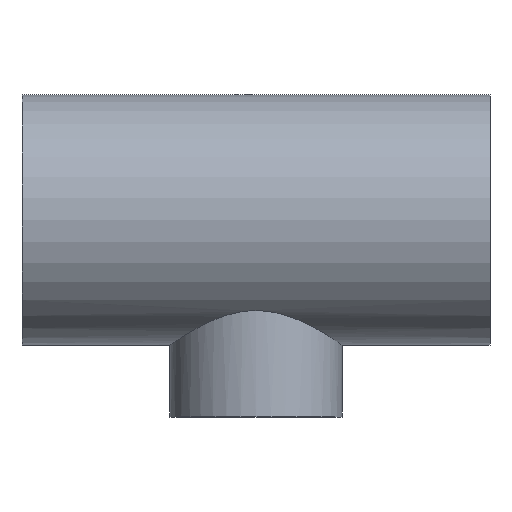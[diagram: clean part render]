
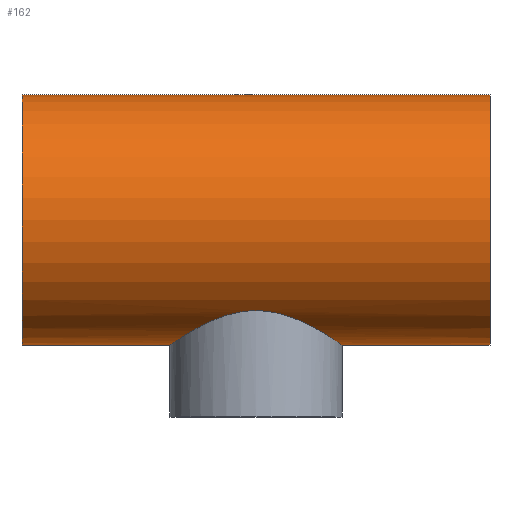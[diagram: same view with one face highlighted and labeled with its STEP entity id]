
A CAD part, top view. The second image highlights one B-rep face of the part: STEP entity #162.
In plain terms, the highlighted cylindrical face has radius 30.5 mm (diameter 61 mm), a full revolution.
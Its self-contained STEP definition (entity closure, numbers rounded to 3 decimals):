
#16=B_SPLINE_CURVE_WITH_KNOTS('',3,(#328,#329,#330,#331,#332,#333,#334,
#335,#336,#337,#338,#339,#340,#341,#342,#343,#344,#345,#346,#347,#348,#349,
#350,#351,#352,#353,#354,#355,#356,#357,#358,#359,#360,#361,#362,#363,#364,
#365,#366,#367,#368,#369,#370,#371,#372,#373,#374,#375,#376,#377,#378,#379,
#380,#381,#382,#383,#384,#385,#386,#387,#388,#389,#390,#391,#392,#393),
 .UNSPECIFIED.,.T.,.F.,(4,2,2,2,2,2,2,2,2,2,2,2,2,2,2,2,2,2,2,2,2,2,2,2,
2,2,2,2,2,2,2,2,4),(0.,0.416,0.832,1.249,
1.665,2.076,2.486,2.897,3.308,
3.719,4.13,4.54,4.951,5.367,
5.784,6.2,6.616,7.032,7.448,
7.865,8.281,8.692,9.102,9.513,
9.924,10.335,10.745,11.156,11.567,
11.983,12.399,12.816,13.232),
 .UNSPECIFIED.);
#32=FACE_BOUND('',#69,.T.);
#33=FACE_BOUND('',#70,.T.);
#46=FACE_OUTER_BOUND('',#68,.T.);
#68=EDGE_LOOP('',(#136));
#69=EDGE_LOOP('',(#137));
#70=EDGE_LOOP('',(#138));
#88=CIRCLE('',#187,30.5);
#89=CIRCLE('',#188,30.5);
#101=VERTEX_POINT('',#325);
#102=VERTEX_POINT('',#327);
#103=VERTEX_POINT('',#394);
#115=EDGE_CURVE('',#101,#101,#88,.T.);
#116=EDGE_CURVE('',#102,#102,#16,.T.);
#117=EDGE_CURVE('',#103,#103,#89,.T.);
#136=ORIENTED_EDGE('',*,*,#115,.F.);
#137=ORIENTED_EDGE('',*,*,#116,.T.);
#138=ORIENTED_EDGE('',*,*,#117,.F.);
#152=CYLINDRICAL_SURFACE('',#186,30.5);
#162=ADVANCED_FACE('',(#46,#32,#33),#152,.T.);
#186=AXIS2_PLACEMENT_3D('',#324,#230,#231);
#187=AXIS2_PLACEMENT_3D('',#326,#232,#233);
#188=AXIS2_PLACEMENT_3D('',#395,#234,#235);
#230=DIRECTION('center_axis',(1.,0.,0.));
#231=DIRECTION('ref_axis',(0.,-1.,0.));
#232=DIRECTION('center_axis',(-1.,0.,0.));
#233=DIRECTION('ref_axis',(0.,-1.,0.));
#234=DIRECTION('center_axis',(1.,0.,0.));
#235=DIRECTION('ref_axis',(0.,-1.,0.));
#324=CARTESIAN_POINT('Origin',(0.,0.,0.));
#325=CARTESIAN_POINT('',(-57.,30.5,0.));
#326=CARTESIAN_POINT('Origin',(-57.,0.,0.));
#327=CARTESIAN_POINT('',(0.,-22.119,21.));
#328=CARTESIAN_POINT('Ctrl Pts',(0.,-22.119,
21.));
#329=CARTESIAN_POINT('Ctrl Pts',(1.387,-22.119,21.));
#330=CARTESIAN_POINT('Ctrl Pts',(2.793,-22.254,20.861));
#331=CARTESIAN_POINT('Ctrl Pts',(5.545,-22.763,20.303));
#332=CARTESIAN_POINT('Ctrl Pts',(6.892,-23.137,19.886));
#333=CARTESIAN_POINT('Ctrl Pts',(9.451,-24.023,18.805));
#334=CARTESIAN_POINT('Ctrl Pts',(10.665,-24.536,18.141));
#335=CARTESIAN_POINT('Ctrl Pts',(12.908,-25.591,16.62));
#336=CARTESIAN_POINT('Ctrl Pts',(13.937,-26.132,15.762));
#337=CARTESIAN_POINT('Ctrl Pts',(15.75,-27.143,13.948));
#338=CARTESIAN_POINT('Ctrl Pts',(16.605,-27.652,12.927));
#339=CARTESIAN_POINT('Ctrl Pts',(18.13,-28.594,10.683));
#340=CARTESIAN_POINT('Ctrl Pts',(18.8,-29.026,9.461));
#341=CARTESIAN_POINT('Ctrl Pts',(19.888,-29.743,6.885));
#342=CARTESIAN_POINT('Ctrl Pts',(20.308,-30.027,5.528));
#343=CARTESIAN_POINT('Ctrl Pts',(20.864,-30.406,2.77));
#344=CARTESIAN_POINT('Ctrl Pts',(21.,-30.5,1.369));
#345=CARTESIAN_POINT('Ctrl Pts',(21.,-30.5,-1.369));
#346=CARTESIAN_POINT('Ctrl Pts',(20.864,-30.406,-2.77));
#347=CARTESIAN_POINT('Ctrl Pts',(20.308,-30.027,-5.528));
#348=CARTESIAN_POINT('Ctrl Pts',(19.888,-29.743,-6.885));
#349=CARTESIAN_POINT('Ctrl Pts',(18.8,-29.026,-9.461));
#350=CARTESIAN_POINT('Ctrl Pts',(18.13,-28.594,-10.683));
#351=CARTESIAN_POINT('Ctrl Pts',(16.605,-27.652,-12.927));
#352=CARTESIAN_POINT('Ctrl Pts',(15.75,-27.143,-13.948));
#353=CARTESIAN_POINT('Ctrl Pts',(13.937,-26.132,-15.762));
#354=CARTESIAN_POINT('Ctrl Pts',(12.908,-25.591,-16.62));
#355=CARTESIAN_POINT('Ctrl Pts',(10.665,-24.536,-18.141));
#356=CARTESIAN_POINT('Ctrl Pts',(9.451,-24.023,-18.805));
#357=CARTESIAN_POINT('Ctrl Pts',(6.892,-23.137,-19.886));
#358=CARTESIAN_POINT('Ctrl Pts',(5.545,-22.763,-20.303));
#359=CARTESIAN_POINT('Ctrl Pts',(2.793,-22.254,-20.861));
#360=CARTESIAN_POINT('Ctrl Pts',(1.387,-22.119,-21.));
#361=CARTESIAN_POINT('Ctrl Pts',(-1.387,-22.119,-21.));
#362=CARTESIAN_POINT('Ctrl Pts',(-2.793,-22.254,-20.861));
#363=CARTESIAN_POINT('Ctrl Pts',(-5.545,-22.763,-20.303));
#364=CARTESIAN_POINT('Ctrl Pts',(-6.892,-23.137,-19.886));
#365=CARTESIAN_POINT('Ctrl Pts',(-9.451,-24.023,-18.805));
#366=CARTESIAN_POINT('Ctrl Pts',(-10.665,-24.536,-18.141));
#367=CARTESIAN_POINT('Ctrl Pts',(-12.908,-25.591,-16.62));
#368=CARTESIAN_POINT('Ctrl Pts',(-13.937,-26.132,-15.762));
#369=CARTESIAN_POINT('Ctrl Pts',(-15.75,-27.143,-13.948));
#370=CARTESIAN_POINT('Ctrl Pts',(-16.605,-27.652,-12.927));
#371=CARTESIAN_POINT('Ctrl Pts',(-18.13,-28.594,-10.683));
#372=CARTESIAN_POINT('Ctrl Pts',(-18.8,-29.026,-9.461));
#373=CARTESIAN_POINT('Ctrl Pts',(-19.888,-29.743,-6.885));
#374=CARTESIAN_POINT('Ctrl Pts',(-20.308,-30.027,-5.528));
#375=CARTESIAN_POINT('Ctrl Pts',(-20.864,-30.406,-2.77));
#376=CARTESIAN_POINT('Ctrl Pts',(-21.,-30.5,-1.369));
#377=CARTESIAN_POINT('Ctrl Pts',(-21.,-30.5,1.369));
#378=CARTESIAN_POINT('Ctrl Pts',(-20.864,-30.406,2.77));
#379=CARTESIAN_POINT('Ctrl Pts',(-20.308,-30.027,5.528));
#380=CARTESIAN_POINT('Ctrl Pts',(-19.888,-29.743,6.885));
#381=CARTESIAN_POINT('Ctrl Pts',(-18.8,-29.026,9.461));
#382=CARTESIAN_POINT('Ctrl Pts',(-18.13,-28.594,10.683));
#383=CARTESIAN_POINT('Ctrl Pts',(-16.605,-27.652,12.927));
#384=CARTESIAN_POINT('Ctrl Pts',(-15.75,-27.143,13.948));
#385=CARTESIAN_POINT('Ctrl Pts',(-13.937,-26.132,15.762));
#386=CARTESIAN_POINT('Ctrl Pts',(-12.908,-25.591,16.62));
#387=CARTESIAN_POINT('Ctrl Pts',(-10.665,-24.536,18.141));
#388=CARTESIAN_POINT('Ctrl Pts',(-9.451,-24.023,18.805));
#389=CARTESIAN_POINT('Ctrl Pts',(-6.892,-23.137,19.886));
#390=CARTESIAN_POINT('Ctrl Pts',(-5.545,-22.763,20.303));
#391=CARTESIAN_POINT('Ctrl Pts',(-2.793,-22.254,20.861));
#392=CARTESIAN_POINT('Ctrl Pts',(-1.387,-22.119,21.));
#393=CARTESIAN_POINT('Ctrl Pts',(0.,-22.119,
21.));
#394=CARTESIAN_POINT('',(57.,30.5,0.));
#395=CARTESIAN_POINT('Origin',(57.,0.,0.));
